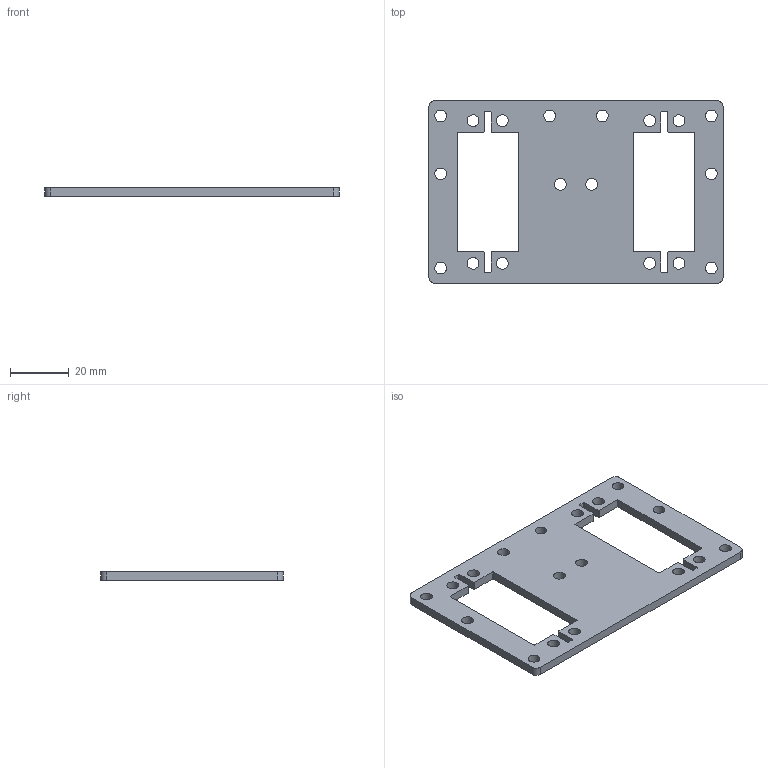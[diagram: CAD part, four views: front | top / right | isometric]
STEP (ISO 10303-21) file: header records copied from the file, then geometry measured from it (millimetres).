
FILE_DESCRIPTION( ('This file contains a STEP AP42 implementation' ,'as created by ZW3D STEP Interface translator.') ,'2;1' );
FILE_NAME( 'ServoHolder.stp' ,'24 9 3.133345', (''), ('ZWCAD Software Co.'), 'Version 1.0', 'ZW3D to STEP translator', '' );
FILE_SCHEMA(('AUTOMOTIVE_DESIGN { 1 0 10303 214 1 1 1 1 }'));
Length unit declared in the file: millimetre
Products named in the file (2): 0; ServoHolder
Bounding box: 100 x 62 x 3 mm (x, y, z)
Volume: 12653.6 mm3; surface area: 10971.4 mm2
Topology: 1 solids, 1 shells, 75 faces, 219 edges, 146 vertices
Faces by surface type: cylinder 45, plane 30
Full cylindrical faces by diameter (mm): 4 x18
Entity records: 2708 total; most frequent: DIRECTION 461, CARTESIAN_POINT 441, ORIENTED_EDGE 438, EDGE_CURVE 219, AXIS2_PLACEMENT_3D 166, VERTEX_POINT 146, VECTOR 129, LINE 129
